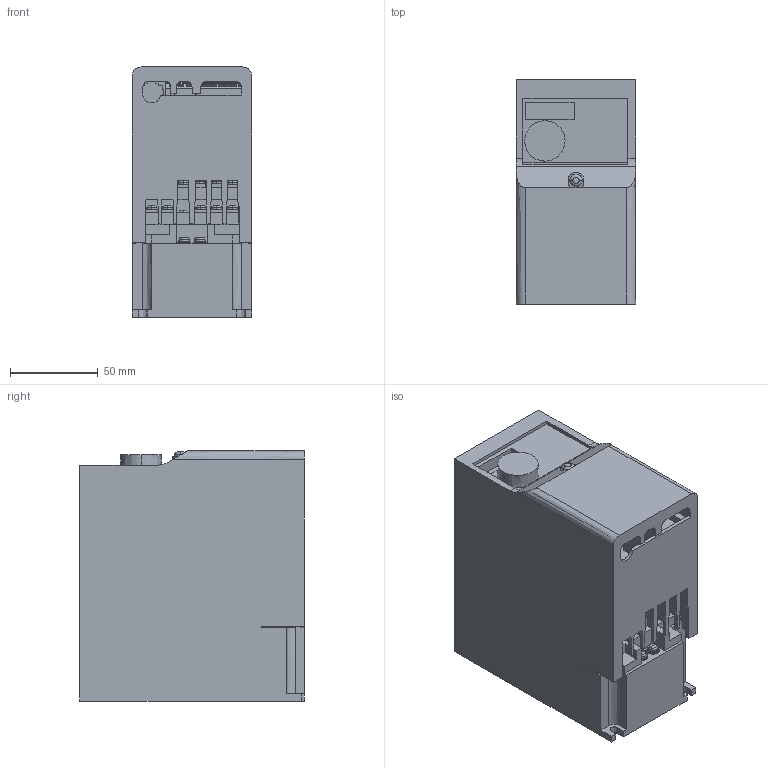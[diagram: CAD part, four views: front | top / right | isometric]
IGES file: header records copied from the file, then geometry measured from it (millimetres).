
Start section:  PTC IGES file: 3d-inv-27_05.igs
Global section: file name: 3d-inv-27_05.igs; native system: Pro/ENGINEER by Parametric Technology Corporation; preprocessor: 2006420; author: SA95828; organization: Unknown; date: 20101014.091259; units: millimetre
Bounding box: 68 x 128 x 142.5 mm (x, y, z)
Volume: 995592.6 mm3; surface area: 126888.3 mm2
Topology: 1 solids, 13 shells, 759 faces, 1961 edges, 1288 vertices
Faces by surface type: bspline 759
